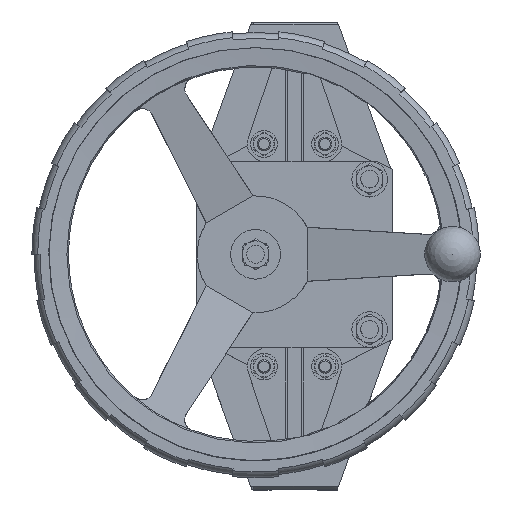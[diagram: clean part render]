
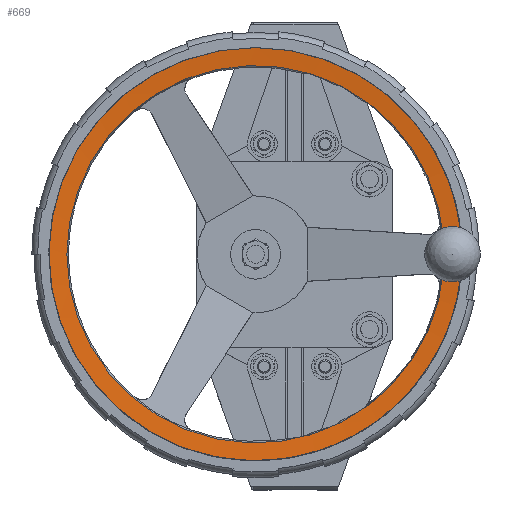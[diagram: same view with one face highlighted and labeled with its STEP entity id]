
A CAD part, top view. The second image highlights one B-rep face of the part: STEP entity #669.
In plain terms, the highlighted conical face has half-angle 85 degrees and reference radius 185.695 mm.
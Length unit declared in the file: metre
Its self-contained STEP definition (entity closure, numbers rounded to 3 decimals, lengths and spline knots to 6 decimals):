
#669=ADVANCED_FACE('',(#2260),#2261,.F.);
#2260=FACE_OUTER_BOUND('',#4352,.T.);
#2261=CONICAL_SURFACE('',#4353,0.185695,1.484);
#4352=EDGE_LOOP('',(#10516,#10517,#10518,#10519,#10520,#10521));
#4353=AXIS2_PLACEMENT_3D('',#10522,#10523,#10524);
#10516=ORIENTED_EDGE('',*,*,#14514,.F.);
#10517=ORIENTED_EDGE('',*,*,#14532,.T.);
#10518=ORIENTED_EDGE('',*,*,#14533,.T.);
#10519=ORIENTED_EDGE('',*,*,#14534,.T.);
#10520=ORIENTED_EDGE('',*,*,#14535,.T.);
#10521=ORIENTED_EDGE('',*,*,#14530,.T.);
#10522=CARTESIAN_POINT('',(-0.035,0.0,0.91441));
#10523=DIRECTION('',(-0.0,0.,1.0));
#10524=DIRECTION('',(0.0,-1.0,0.));
#14514=EDGE_CURVE('',#18187,#18189,#18190,.T.);
#14530=EDGE_CURVE('',#18216,#18189,#18217,.T.);
#14532=EDGE_CURVE('',#18187,#18219,#18220,.T.);
#14533=EDGE_CURVE('',#18219,#18221,#18222,.T.);
#14534=EDGE_CURVE('',#18221,#18223,#18224,.T.);
#14535=EDGE_CURVE('',#18223,#18216,#18225,.T.);
#18187=VERTEX_POINT('',#24540);
#18189=VERTEX_POINT('',#24543);
#18190=CIRCLE('',#24544,0.185695);
#18216=VERTEX_POINT('',#24711);
#18217=B_SPLINE_CURVE_WITH_KNOTS('',3,(#24712,#24713,#24714,#24715),.UNSPECIFIED.,.F.,.F.,(4,4),(0.048952,0.057071),.UNSPECIFIED.);
#18219=VERTEX_POINT('',#24718);
#18220=B_SPLINE_CURVE_WITH_KNOTS('',3,(#24719,#24720,#24721,#24722),.UNSPECIFIED.,.F.,.F.,(4,4),(0.02865,0.03677),.UNSPECIFIED.);
#18221=VERTEX_POINT('',#24723);
#18222=B_SPLINE_CURVE_WITH_KNOTS('',3,(#24724,#24725,#24726,#24727,#24728,#24729,#24730,#24731),.UNSPECIFIED.,.F.,.F.,(4,2,2,4),(0.0,0.004144,0.006216,0.008288),.UNSPECIFIED.);
#18223=VERTEX_POINT('',#24732);
#18224=CIRCLE('',#24733,0.169584);
#18225=B_SPLINE_CURVE_WITH_KNOTS('',3,(#24734,#24735,#24736,#24737,#24738,#24739,#24740,#24741),.UNSPECIFIED.,.F.,.F.,(4,2,2,4),(0.0,0.004144,0.006216,0.008288),.UNSPECIFIED.);
#24540=CARTESIAN_POINT('',(0.150088,-0.015,0.91441));
#24543=CARTESIAN_POINT('',(0.150088,0.015,0.91441));
#24544=AXIS2_PLACEMENT_3D('',#29560,#29561,#29562);
#24711=CARTESIAN_POINT('',(0.142,0.015,0.913704));
#24712=CARTESIAN_POINT('',(0.142,0.015,0.913704));
#24713=CARTESIAN_POINT('',(0.144696,0.015,0.913939));
#24714=CARTESIAN_POINT('',(0.147392,0.015,0.914174));
#24715=CARTESIAN_POINT('',(0.150088,0.015,0.91441));
#24718=CARTESIAN_POINT('',(0.142,-0.015,0.913704));
#24719=CARTESIAN_POINT('',(0.150088,-0.015,0.91441));
#24720=CARTESIAN_POINT('',(0.147392,-0.015,0.914174));
#24721=CARTESIAN_POINT('',(0.144696,-0.015,0.913939));
#24722=CARTESIAN_POINT('',(0.142,-0.015,0.913704));
#24723=CARTESIAN_POINT('',(0.134104,-0.012753,0.913));
#24724=CARTESIAN_POINT('',(0.142,-0.015,0.913704));
#24725=CARTESIAN_POINT('',(0.140604,-0.015,0.913583));
#24726=CARTESIAN_POINT('',(0.139241,-0.014809,0.913462));
#24727=CARTESIAN_POINT('',(0.137243,-0.014243,0.913284));
#24728=CARTESIAN_POINT('',(0.136583,-0.014005,0.913225));
#24729=CARTESIAN_POINT('',(0.135312,-0.013445,0.91311));
#24730=CARTESIAN_POINT('',(0.134698,-0.013121,0.913054));
#24731=CARTESIAN_POINT('',(0.134104,-0.012753,0.913));
#24732=CARTESIAN_POINT('',(0.134104,0.012753,0.913));
#24733=AXIS2_PLACEMENT_3D('',#29593,#29594,#29595);
#24734=CARTESIAN_POINT('',(0.134104,0.012753,0.913));
#24735=CARTESIAN_POINT('',(0.135291,0.013489,0.913108));
#24736=CARTESIAN_POINT('',(0.136552,0.014044,0.913222));
#24737=CARTESIAN_POINT('',(0.138548,0.014614,0.913401));
#24738=CARTESIAN_POINT('',(0.139234,0.014759,0.913461));
#24739=CARTESIAN_POINT('',(0.140609,0.014952,0.913583));
#24740=CARTESIAN_POINT('',(0.141302,0.015,0.913643));
#24741=CARTESIAN_POINT('',(0.142,0.015,0.913704));
#29560=CARTESIAN_POINT('',(-0.035,0.0,0.91441));
#29561=DIRECTION('',(0.0,0.,-1.0));
#29562=DIRECTION('',(0.0,1.0,0.));
#29593=CARTESIAN_POINT('',(-0.035,0.0,0.913));
#29594=DIRECTION('',(0.0,0.,-1.0));
#29595=DIRECTION('',(0.0,1.0,0.));
